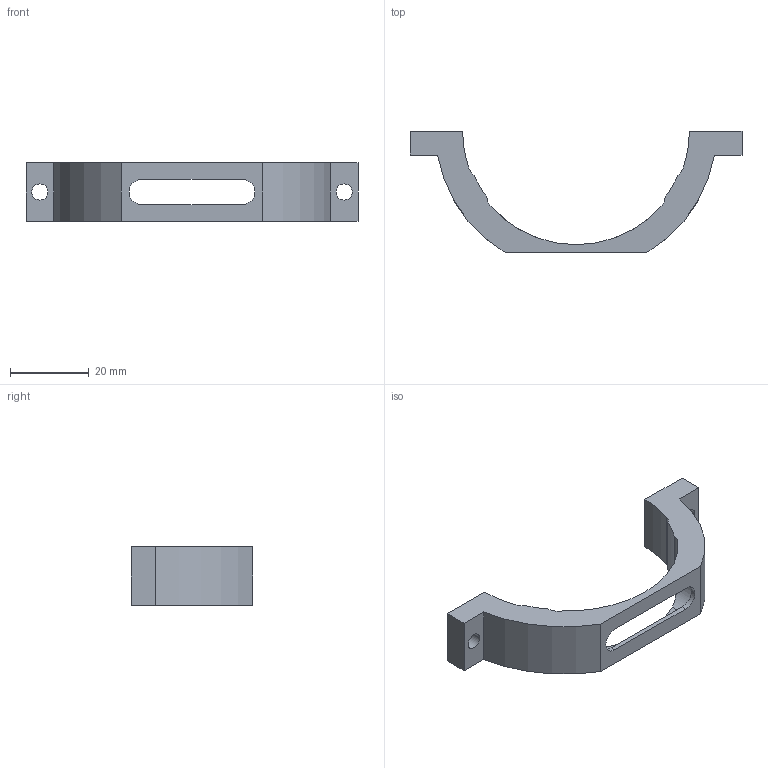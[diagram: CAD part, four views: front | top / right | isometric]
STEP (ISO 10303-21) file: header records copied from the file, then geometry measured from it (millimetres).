
FILE_DESCRIPTION (( 'STEP AP203' ), '1' );
FILE_NAME ('昜噩殤蜊狟.step', '2026-04-15T11:44:54', ( 'user' ), ( 'dfgadg' ), 'SwSTEP 2.0', 'SolidWorks 2025', '' );
FILE_SCHEMA (( 'CONFIG_CONTROL_DESIGN' ));
Length unit declared in the file: millimetre
Products named in the file (1): 物镜架改下
Bounding box: 84.1 x 30.7 x 14.7 mm (x, y, z)
Volume: 8471.4 mm3; surface area: 4922.8 mm2
Topology: 1 solids, 1 shells, 37 faces, 102 edges, 68 vertices
Faces by surface type: cylinder 23, plane 14
Entity records: 1377 total; most frequent: CARTESIAN_POINT 304, DIRECTION 218, ORIENTED_EDGE 204, EDGE_CURVE 102, AXIS2_PLACEMENT_3D 82, VERTEX_POINT 68, VECTOR 54, LINE 54
